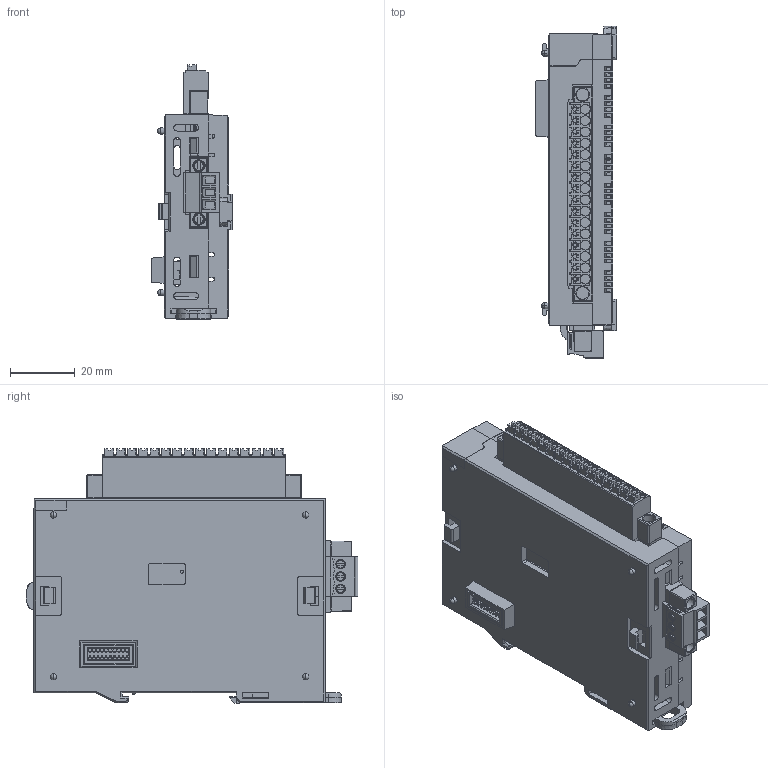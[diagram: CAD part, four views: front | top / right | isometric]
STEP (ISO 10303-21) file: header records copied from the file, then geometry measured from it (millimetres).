
FILE_DESCRIPTION (( 'STEP AP203' ), '1' );
FILE_NAME ('CM3-SP08EAO-A_目池磐 器窃.STEP', '2025-10-20T08:16:20', ( '' ), ( '' ), 'SwSTEP 2.0', 'SolidWorks 2024', '' );
FILE_SCHEMA (( 'CONFIG_CONTROL_DESIGN' ));
Products named in the file (1): CM3-SP08EAO-A_커넥터 포함
Bounding box: 25.25 x 102.6 x 78.7 mm (x, y, z)
Volume: 41841 mm3; surface area: 49344.3 mm2
Topology: 1 solids, 21 shells, 5846 faces, 16803 edges, 10907 vertices
Faces by surface type: plane 4803, cylinder 714, cone 173, bspline 69, torus 61, sphere 26
Entity records: 196146 total; most frequent: CARTESIAN_POINT 44184, ORIENTED_EDGE 33566, DIRECTION 28715, EDGE_CURVE 16783, LINE 13389, VECTOR 13389, VERTEX_POINT 10899, AXIS2_PLACEMENT_3D 7663
